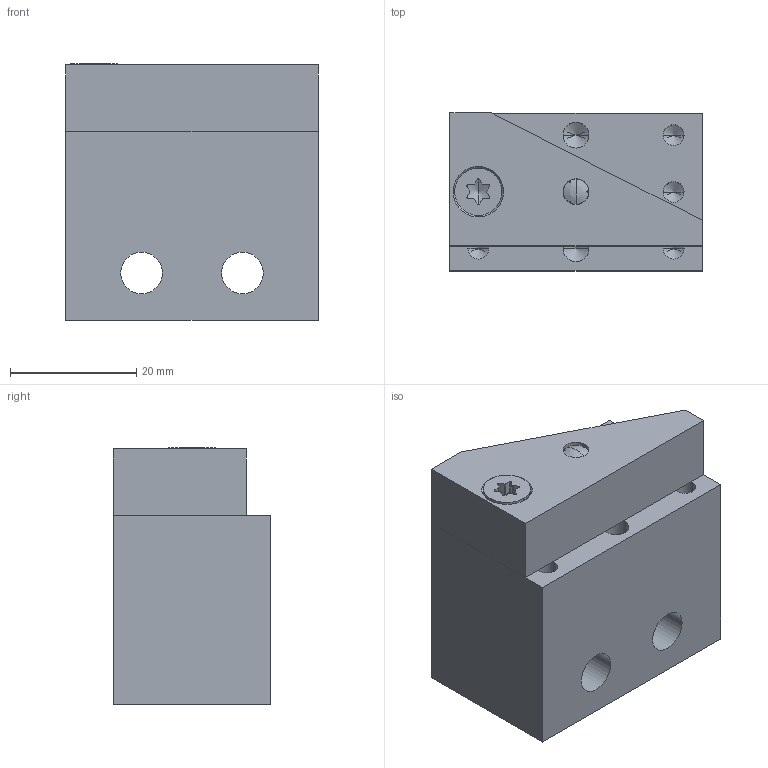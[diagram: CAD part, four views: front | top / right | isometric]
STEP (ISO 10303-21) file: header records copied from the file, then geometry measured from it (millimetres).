
FILE_DESCRIPTION((''),'2;1');
FILE_NAME('EZ-415_N-PZU-1_1-006-1_ASM','2026-08-18T11:50:02',('dmautner'),(''),'CREO PARAMETRIC BY PTC INC, 2024273','CREO PARAMETRIC BY PTC INC, 2024273','');
FILE_SCHEMA(('AUTOMOTIVE_DESIGN { 1 0 10303 214 1 1 1 1 }'));
Length unit declared in the file: millimetre
Products named in the file (3): EZ-415_N-PZU-1_1-055-1; EZ-415_N-PZU-1_1-054-1_LI; EZ-415_N-PZU-1_1-006-1_ASM
Assembly tree (2 placements, depth 2):
  EZ-415_N-PZU-1_1-006-1_ASM
    EZ-415_N-PZU-1_1-055-1
    EZ-415_N-PZU-1_1-054-1_LI
Bounding box: 40 x 25 x 40.7 mm (x, y, z)
Volume: 30967.3 mm3; surface area: 11159.9 mm2
Topology: 3 solids, 3 shells, 119 faces, 309 edges, 186 vertices
Faces by surface type: cylinder 49, plane 35, cone 31, sphere 4
Entity records: 5737 total; most frequent: CARTESIAN_POINT 1215, DIRECTION 687, ORIENTED_EDGE 570, EDGE_CURVE 285, AXIS2_PLACEMENT_3D 272, COLOUR_RGB 198, VERTEX_POINT 186, EDGE_LOOP 139
